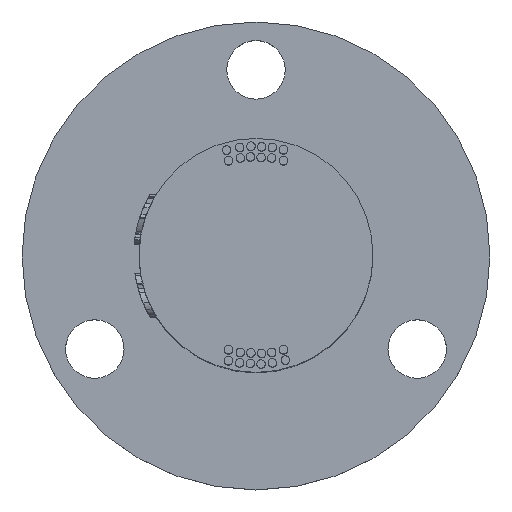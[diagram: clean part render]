
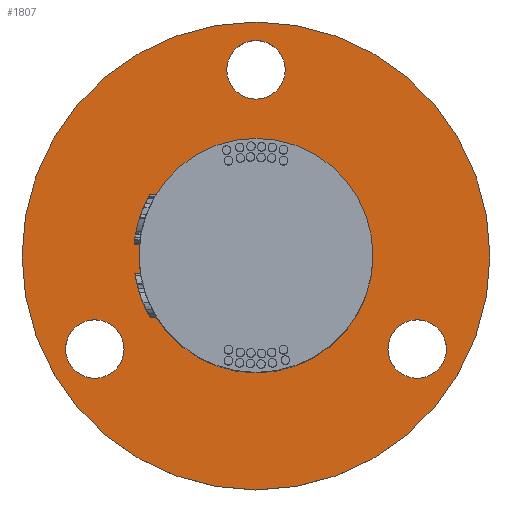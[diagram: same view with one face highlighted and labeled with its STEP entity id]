
A CAD part, top view. The second image highlights one B-rep face of the part: STEP entity #1807.
In plain terms, the highlighted planar face has unit normal (0, 0, 1).
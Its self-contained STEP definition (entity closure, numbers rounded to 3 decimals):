
#180=FACE_BOUND('',#3291,.T.);
#181=FACE_BOUND('',#3292,.T.);
#182=FACE_BOUND('',#3293,.T.);
#183=FACE_BOUND('',#3294,.T.);
#184=FACE_BOUND('',#3295,.T.);
#452=CIRCLE('',#11556,2.75);
#453=CIRCLE('',#11557,2.75);
#454=CIRCLE('',#11558,2.75);
#455=CIRCLE('',#11559,11.);
#456=CIRCLE('',#11560,22.);
#1807=ADVANCED_FACE('',(#180,#181,#182,#183,#184),#2197,.T.);
#2197=PLANE('',#11561);
#3291=EDGE_LOOP('',(#5427));
#3292=EDGE_LOOP('',(#5428));
#3293=EDGE_LOOP('',(#5429));
#3294=EDGE_LOOP('',(#5430));
#3295=EDGE_LOOP('',(#5431));
#5427=ORIENTED_EDGE('',*,*,#9298,.F.);
#5428=ORIENTED_EDGE('',*,*,#9299,.F.);
#5429=ORIENTED_EDGE('',*,*,#9300,.F.);
#5430=ORIENTED_EDGE('',*,*,#9301,.T.);
#5431=ORIENTED_EDGE('',*,*,#9302,.F.);
#7780=VERTEX_POINT('',#22173);
#7781=VERTEX_POINT('',#22175);
#7782=VERTEX_POINT('',#22177);
#7783=VERTEX_POINT('',#22179);
#7784=VERTEX_POINT('',#22181);
#9298=EDGE_CURVE('',#7780,#7780,#452,.T.);
#9299=EDGE_CURVE('',#7781,#7781,#453,.T.);
#9300=EDGE_CURVE('',#7782,#7782,#454,.T.);
#9301=EDGE_CURVE('',#7783,#7783,#455,.T.);
#9302=EDGE_CURVE('',#7784,#7784,#456,.T.);
#11556=AXIS2_PLACEMENT_3D('',#22172,#12829,#12830);
#11557=AXIS2_PLACEMENT_3D('',#22174,#12831,#12832);
#11558=AXIS2_PLACEMENT_3D('',#22176,#12833,#12834);
#11559=AXIS2_PLACEMENT_3D('',#22178,#12835,#12836);
#11560=AXIS2_PLACEMENT_3D('',#22180,#12837,#12838);
#11561=AXIS2_PLACEMENT_3D('',#22182,#12839,#12840);
#12829=DIRECTION('',(0.,0.,1.));
#12830=DIRECTION('',(1.,0.,0.));
#12831=DIRECTION('',(0.,0.,1.));
#12832=DIRECTION('',(1.,0.,0.));
#12833=DIRECTION('',(0.,0.,1.));
#12834=DIRECTION('',(1.,0.,0.));
#12835=DIRECTION('',(0.,0.,-1.));
#12836=DIRECTION('',(1.,0.,0.));
#12837=DIRECTION('',(0.,0.,-1.));
#12838=DIRECTION('',(1.,0.,0.));
#12839=DIRECTION('',(0.,0.,1.));
#12840=DIRECTION('',(1.,0.,0.));
#22172=CARTESIAN_POINT('',(0.,17.5,2.5));
#22173=CARTESIAN_POINT('',(2.75,17.5,2.5));
#22174=CARTESIAN_POINT('',(-15.155,-8.75,2.5));
#22175=CARTESIAN_POINT('',(-12.405,-8.75,2.5));
#22176=CARTESIAN_POINT('',(15.155,-8.75,2.5));
#22177=CARTESIAN_POINT('',(17.905,-8.75,2.5));
#22178=CARTESIAN_POINT('',(0.,0.,2.5));
#22179=CARTESIAN_POINT('',(11.,0.,2.5));
#22180=CARTESIAN_POINT('',(0.,0.,2.5));
#22181=CARTESIAN_POINT('',(22.,0.,2.5));
#22182=CARTESIAN_POINT('',(0.,0.,2.5));
